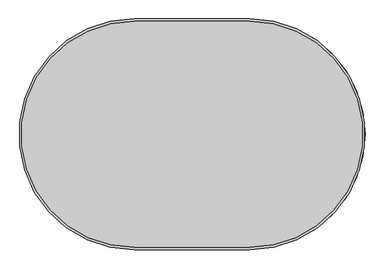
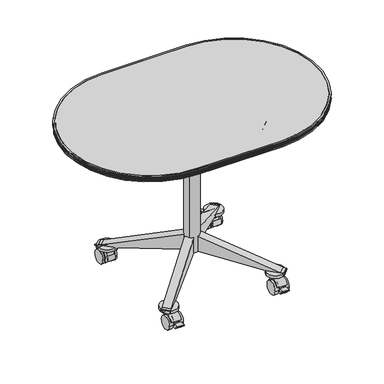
"""IFC4 building model written with IfcOpenShell, lengths in millimetres: furniture geometry, Coalesse_AM_Table_Conference_Ballet_Side : Racetrack - Caster."""

from ifc_helpers import new_model, si_unit, point, frame, frame_2d, origin, place, context, project, spatial, polyline, circle_curve, trimmed, segment, composite_curve, outline, extrude, source, transform, mapped, element, save
from ifc_brep_helpers import plane_surface, cylinder_surface, revolved_surface, advanced_brep


def furniture_60187970(model_context):
    return source(origin(), model_context, "Body", "SolidModel", [
        extrude(outline(composite_curve([segment(polyline([(-37.2834365, 26.9246599), (-26.8661847, 37.3419116)]), True, "CONTINUOUS"), segment(trimmed(circle_curve(frame_2d((0.0745836, 10.4011432)), 38.1), [point((-26.8661847, 37.3419116))], [point((27.015352, 37.3419116))], False, "CARTESIAN"), True, "CONTINUOUS"), segment(polyline([(27.015352, 37.3419116), (38.9313594, 25.4259042)]), True, "CONTINUOUS"), segment(trimmed(circle_curve(frame_2d((13.4893466, -0.0161085)), 35.9804395), [point((38.9313594, 25.4259042))], [point((38.9313594, -25.4581212))], False, "CARTESIAN"), True, "CONTINUOUS"), segment(polyline([(38.9313594, -25.4581212), (27.015352, -37.3741286)]), True, "CONTINUOUS"), segment(trimmed(circle_curve(frame_2d((0.0745836, -10.4333602)), 38.1), [point((27.015352, -37.3741286))], [point((-26.8661847, -37.3741286))], False, "CARTESIAN"), True, "CONTINUOUS"), segment(polyline([(-26.8661847, -37.3741286), (-37.2834365, -26.9568769)]), True, "CONTINUOUS"), segment(trimmed(circle_curve(frame_2d((-10.3426681, -0.0161085)), 38.1), [point((-37.2834365, -26.9568769))], [point((-37.2834365, 26.9246599))], False, "CARTESIAN"), True, "CONTINUOUS")], self_intersect=False)), frame((0.0, 0.0, 536.3169247), z_axis=(0.0, 0.0, 1.0), x_axis=(1.0, 0.0, 0.0)), (0.0, 0.0, 1.0), 50.3081696),
        extrude(outline(composite_curve([segment(polyline([(-81.1409418, 49.3084633), (-49.5692956, 80.8801095)]), True, "CONTINUOUS"), segment(trimmed(circle_curve(frame_2d((0.0, 156.1108358)), 90.0931587), [point((-49.5692956, 80.8801095))], [point((49.871233, 81.0799264))], True, "CARTESIAN"), True, "CONTINUOUS"), segment(polyline([(49.871233, 81.0799264), (81.1309866, 49.8201728)]), True, "CONTINUOUS"), segment(trimmed(circle_curve(frame_2d((153.3620811, 0.0)), 87.7461145), [point((81.1309866, 49.8201728))], [point((81.7629451, -50.7241989))], True, "CARTESIAN"), True, "CONTINUOUS"), segment(polyline([(81.7629451, -50.7241989), (50.5881651, -81.8989789)]), True, "CONTINUOUS"), segment(trimmed(circle_curve(frame_2d((0.0, -154.7295322)), 88.6761069), [point((50.5881651, -81.8989789))], [point((-51.0893198, -82.2496499))], True, "CARTESIAN"), True, "CONTINUOUS"), segment(polyline([(-51.0893198, -82.2496499), (-82.3248918, -51.014078)]), True, "CONTINUOUS"), segment(trimmed(circle_curve(frame_2d((-153.9959305, 0.0)), 87.9725749), [point((-82.3248918, -51.014078))], [point((-81.1409418, 49.3084633))], True, "CARTESIAN"), True, "CONTINUOUS")], self_intersect=False)), frame((0.0, 0.0, 563.948073), z_axis=(0.0, 0.0, 1.0), x_axis=(1.0, 0.0, 0.0)), (0.0, 0.0, 1.0), 22.6770213),
        extrude(outline(composite_curve([segment(polyline([(114.3, 0.0), (115.2263736, -5.2537258)]), True, "CONTINUOUS"), segment(trimmed(circle_curve(frame_2d((109.4080133, -6.2796597)), 5.9081179), [point((115.2263736, -5.2537258))], [point((112.3666622, -11.3935872))], False, "CARTESIAN"), True, "CONTINUOUS"), segment(trimmed(circle_curve(frame_2d((-123.1481635, 395.6860679)), 470.2989248), [point((112.3666622, -11.3935872))], [point((-41.1216208, -67.404339))], False, "CARTESIAN"), True, "CONTINUOUS"), segment(trimmed(circle_curve(frame_2d((-123.1481635, 395.6860679)), 470.2989248), [point((-41.1216208, -67.404339))], [point((-66.3652264, -71.172344))], False, "CARTESIAN"), True, "CONTINUOUS"), segment(trimmed(circle_curve(frame_2d((-64.5887584, -85.7781231)), 14.7134164), [point((-66.3652264, -71.172344))], [point((-76.9601862, -77.8136775))], True, "CARTESIAN"), True, "CONTINUOUS"), segment(trimmed(circle_curve(frame_2d((-64.5887584, -85.7781231)), 14.7134164), [point((-76.9601862, -77.8136775))], [point((-79.0764227, -88.3456516))], True, "CARTESIAN"), True, "CONTINUOUS"), segment(trimmed(circle_curve(frame_2d((-82.4829244, -88.9493576)), 3.4595829), [point((-79.0764227, -88.3456516))], [point((-81.6450497, -92.3059452))], False, "CARTESIAN"), True, "CONTINUOUS"), segment(polyline([(-81.6450497, -92.3059452), (-160.9573766, -92.3059452)]), True, "CONTINUOUS"), segment(trimmed(circle_curve(frame_2d((-160.119502, -88.9493576)), 3.4595829), [point((-160.9573766, -92.3059452))], [point((-163.5260036, -88.3456516))], False, "CARTESIAN"), True, "CONTINUOUS"), segment(trimmed(circle_curve(frame_2d((-178.0136679, -85.7781231)), 14.7134164), [point((-163.5260036, -88.3456516))], [point((-165.6422401, -77.8136775))], True, "CARTESIAN"), True, "CONTINUOUS"), segment(trimmed(circle_curve(frame_2d((-178.0136679, -85.7781231)), 14.7134164), [point((-165.6422401, -77.8136775))], [point((-176.2372, -71.172344))], True, "CARTESIAN"), True, "CONTINUOUS"), segment(trimmed(circle_curve(frame_2d((-119.4542628, 395.6860679)), 470.2989248), [point((-176.2372, -71.172344))], [point((-201.4808056, -67.404339))], False, "CARTESIAN"), True, "CONTINUOUS"), segment(trimmed(circle_curve(frame_2d((-119.4542628, 395.6860679)), 470.2989248), [point((-201.4808056, -67.404339))], [point((-354.9690885, -11.3935872))], False, "CARTESIAN"), True, "CONTINUOUS"), segment(trimmed(circle_curve(frame_2d((-352.0104397, -6.2796597)), 5.9081179), [point((-354.9690885, -11.3935872))], [point((-357.8288, -5.2537258))], False, "CARTESIAN"), True, "CONTINUOUS"), segment(polyline([(-357.8288, -5.2537258), (-356.9024264, 0.0), (-242.6024263, 0.0)]), True, "CONTINUOUS"), segment(trimmed(circle_curve(frame_2d((-184.587638, 17.529313)), 60.6052183), [point((-242.6024263, 0.0))], [point((-195.8254097, -42.0249058))], True, "CARTESIAN"), True, "CONTINUOUS"), segment(trimmed(circle_curve(frame_2d((-133.7603939, 286.8867003)), 334.7161645), [point((-195.8254097, -42.0249058))], [point((-152.4418907, -47.3077229))], True, "CARTESIAN"), True, "CONTINUOUS"), segment(trimmed(circle_curve(frame_2d((-151.7916573, -35.6756582)), 11.6502245), [point((-152.4418907, -47.3077229))], [point((-142.023608, -42.0249058))], True, "CARTESIAN"), True, "CONTINUOUS"), segment(polyline([(-142.023608, -42.0249058), (-100.5788184, -42.0249058)]), True, "CONTINUOUS"), segment(trimmed(circle_curve(frame_2d((-90.810769, -35.6756582)), 11.6502245), [point((-100.5788184, -42.0249058))], [point((-90.1605356, -47.3077229))], True, "CARTESIAN"), True, "CONTINUOUS"), segment(trimmed(circle_curve(frame_2d((-108.8420324, 286.8867003)), 334.7161645), [point((-90.1605356, -47.3077229))], [point((-46.7770167, -42.0249058))], True, "CARTESIAN"), True, "CONTINUOUS"), segment(trimmed(circle_curve(frame_2d((-58.0147883, 17.529313)), 60.6052183), [point((-46.7770167, -42.0249058))], [point((0.0, 0.0))], True, "CARTESIAN"), True, "CONTINUOUS"), segment(polyline([(0.0, 0.0), (114.3, 0.0)]), True, "CONTINUOUS")], self_intersect=False)), frame((-101.4283173, 70.1175035, 628.65), z_axis=(0.7071067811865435, 0.7071067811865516, 0.0), x_axis=(-0.7071067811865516, 0.7071067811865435, 0.0)), (0.0, 0.0, 1.0), 44.2801776),
        extrude(outline(composite_curve([segment(polyline([(114.3, 0.0), (115.2263736, -5.2537258)]), True, "CONTINUOUS"), segment(trimmed(circle_curve(frame_2d((109.4080133, -6.2796597)), 5.9081179), [point((115.2263736, -5.2537258))], [point((112.3666622, -11.3935872))], False, "CARTESIAN"), True, "CONTINUOUS"), segment(trimmed(circle_curve(frame_2d((-123.1481635, 395.6860679)), 470.2989248), [point((112.3666622, -11.3935872))], [point((-41.1216208, -67.404339))], False, "CARTESIAN"), True, "CONTINUOUS"), segment(trimmed(circle_curve(frame_2d((-123.1481635, 395.6860679)), 470.2989248), [point((-41.1216208, -67.404339))], [point((-66.3652264, -71.172344))], False, "CARTESIAN"), True, "CONTINUOUS"), segment(trimmed(circle_curve(frame_2d((-64.5887584, -85.7781231)), 14.7134164), [point((-66.3652264, -71.172344))], [point((-76.9601862, -77.8136775))], True, "CARTESIAN"), True, "CONTINUOUS"), segment(trimmed(circle_curve(frame_2d((-64.5887584, -85.7781231)), 14.7134164), [point((-76.9601862, -77.8136775))], [point((-79.0764227, -88.3456516))], True, "CARTESIAN"), True, "CONTINUOUS"), segment(trimmed(circle_curve(frame_2d((-82.4829244, -88.9493576)), 3.4595829), [point((-79.0764227, -88.3456516))], [point((-81.6450497, -92.3059452))], False, "CARTESIAN"), True, "CONTINUOUS"), segment(polyline([(-81.6450497, -92.3059452), (-160.9573766, -92.3059452)]), True, "CONTINUOUS"), segment(trimmed(circle_curve(frame_2d((-160.119502, -88.9493576)), 3.4595829), [point((-160.9573766, -92.3059452))], [point((-163.5260036, -88.3456516))], False, "CARTESIAN"), True, "CONTINUOUS"), segment(trimmed(circle_curve(frame_2d((-178.0136679, -85.7781231)), 14.7134164), [point((-163.5260036, -88.3456516))], [point((-165.6422401, -77.8136775))], True, "CARTESIAN"), True, "CONTINUOUS"), segment(trimmed(circle_curve(frame_2d((-178.0136679, -85.7781231)), 14.7134164), [point((-165.6422401, -77.8136775))], [point((-176.2372, -71.172344))], True, "CARTESIAN"), True, "CONTINUOUS"), segment(trimmed(circle_curve(frame_2d((-119.4542628, 395.6860679)), 470.2989248), [point((-176.2372, -71.172344))], [point((-201.4808056, -67.404339))], False, "CARTESIAN"), True, "CONTINUOUS"), segment(trimmed(circle_curve(frame_2d((-119.4542628, 395.6860679)), 470.2989248), [point((-201.4808056, -67.404339))], [point((-354.9690885, -11.3935872))], False, "CARTESIAN"), True, "CONTINUOUS"), segment(trimmed(circle_curve(frame_2d((-352.0104397, -6.2796597)), 5.9081179), [point((-354.9690885, -11.3935872))], [point((-357.8288, -5.2537258))], False, "CARTESIAN"), True, "CONTINUOUS"), segment(polyline([(-357.8288, -5.2537258), (-356.9024264, 0.0), (-242.6024263, 0.0)]), True, "CONTINUOUS"), segment(trimmed(circle_curve(frame_2d((-184.587638, 17.529313)), 60.6052183), [point((-242.6024263, 0.0))], [point((-195.8254097, -42.0249058))], True, "CARTESIAN"), True, "CONTINUOUS"), segment(trimmed(circle_curve(frame_2d((-133.7603939, 286.8867003)), 334.7161645), [point((-195.8254097, -42.0249058))], [point((-152.4418907, -47.3077229))], True, "CARTESIAN"), True, "CONTINUOUS"), segment(trimmed(circle_curve(frame_2d((-151.7916573, -35.6756582)), 11.6502245), [point((-152.4418907, -47.3077229))], [point((-142.023608, -42.0249058))], True, "CARTESIAN"), True, "CONTINUOUS"), segment(polyline([(-142.023608, -42.0249058), (-100.5788184, -42.0249058)]), True, "CONTINUOUS"), segment(trimmed(circle_curve(frame_2d((-90.810769, -35.6756582)), 11.6502245), [point((-100.5788184, -42.0249058))], [point((-90.1605356, -47.3077229))], True, "CARTESIAN"), True, "CONTINUOUS"), segment(trimmed(circle_curve(frame_2d((-108.8420324, 286.8867003)), 334.7161645), [point((-90.1605356, -47.3077229))], [point((-46.7770167, -42.0249058))], True, "CARTESIAN"), True, "CONTINUOUS"), segment(trimmed(circle_curve(frame_2d((-58.0147883, 17.529313)), 60.6052183), [point((-46.7770167, -42.0249058))], [point((0.0, 0.0))], True, "CARTESIAN"), True, "CONTINUOUS"), segment(polyline([(0.0, 0.0), (114.3, 0.0)]), True, "CONTINUOUS")], self_intersect=False)), frame((-70.1175035, -101.4283173, 628.65), z_axis=(-0.7071067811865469, 0.7071067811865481, 0.0), x_axis=(-0.7071067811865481, -0.7071067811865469, 0.0)), (0.0, 0.0, 1.0), 44.2801776),
        extrude(outline(composite_curve([segment(trimmed(circle_curve(frame_2d((209.2741105, 25.3444377)), 28.8343721), [point((182.4395783, 14.7931869))], [point((182.4395783, 35.8956886))], False, "CARTESIAN"), True, "CONTINUOUS"), segment(trimmed(circle_curve(frame_2d((207.8788336, 25.8930561)), 27.3351124), [point((182.4395783, 35.8956886))], [point((197.8152878, 51.3082762))], False, "CARTESIAN"), True, "CONTINUOUS"), segment(trimmed(circle_curve(frame_2d((209.4353674, 26.7032164)), 27.2109394), [point((197.8152878, 51.3082762))], [point((234.6796249, 36.8601197))], False, "CARTESIAN"), True, "CONTINUOUS"), segment(polyline([(234.6796249, 36.8601197), (231.2540436, 35.7749086)]), True, "CONTINUOUS"), segment(trimmed(circle_curve(frame_2d((208.7663144, 24.9907393)), 24.9398531), [point((231.2540436, 35.7749086))], [point((185.3508649, 16.4051117))], True, "CARTESIAN"), True, "CONTINUOUS"), segment(polyline([(185.3508649, 16.4051117), (182.4395783, 14.7931869)]), True, "CONTINUOUS")], self_intersect=False)), frame((174.0984431, 0.0, 0.0), z_axis=(1.0, 0.0, 0.0), x_axis=(0.0, 1.0, 0.0)), (0.0, 0.0, 1.0), 36.0286787),
        extrude(outline(composite_curve([segment(trimmed(circle_curve(frame_2d((208.7663144, 24.9907393)), 24.9398531), [point((233.7061675, 24.9907393))], [point((183.8264612, 24.9907393))], False, "CARTESIAN"), True, "CONTINUOUS"), segment(trimmed(circle_curve(frame_2d((208.7663144, 24.9907393)), 24.9398531), [point((183.8264612, 24.9907393))], [point((233.7061675, 24.9907393))], False, "CARTESIAN"), True, "CONTINUOUS")], self_intersect=False)), frame((166.2968952, 0.0, 0.0), z_axis=(1.0, 0.0, 0.0), x_axis=(0.0, 1.0, 0.0)), (0.0, 0.0, 1.0), 14.6120158),
        extrude(outline(composite_curve([segment(polyline([(197.8152878, 63.5225277), (197.8152878, 51.3082762)]), True, "CONTINUOUS"), segment(trimmed(circle_curve(frame_2d((209.4353674, 26.7032164)), 27.2109394), [point((197.8152878, 51.3082762))], [point((234.6796249, 36.8601197))], False, "CARTESIAN"), True, "CONTINUOUS"), segment(polyline([(234.6796249, 36.8601197), (219.8001714, 32.1463658), (222.0637731, 25.0010719), (241.3530844, 25.0010719), (241.3530844, 35.1210973), (260.4030844, 35.1210973), (260.4030844, 31.7691038), (253.6776476, 31.7691038), (244.706152, 17.4117096), (218.9375545, 17.4117096)]), True, "CONTINUOUS"), segment(trimmed(circle_curve(frame_2d((208.672695, 25.0010719)), 12.7658043), [point((218.9375545, 17.4117096))], [point((198.9802659, 16.6930892))], False, "CARTESIAN"), True, "CONTINUOUS"), segment(polyline([(198.9802659, 16.6930892), (195.904393, 22.2484025), (182.4395783, 14.7931869)]), True, "CONTINUOUS"), segment(trimmed(circle_curve(frame_2d((209.2741105, 25.3444377)), 28.8343721), [point((182.4395783, 14.7931869))], [point((182.4395783, 35.8956886))], False, "CARTESIAN"), True, "CONTINUOUS"), segment(polyline([(182.4395783, 35.8956886), (182.4395783, 63.5225277), (197.8152878, 63.5225277)]), True, "CONTINUOUS")], self_intersect=False)), frame((179.2633359, 0.0, 0.0), z_axis=(1.0, 0.0, 0.0), x_axis=(0.0, 1.0, 0.0)), (0.0, 0.0, 1.0), 22.3970625),
        extrude(outline(composite_curve([segment(trimmed(circle_curve(frame_2d((208.7663144, 24.9907393)), 24.9398531), [point((233.7061675, 24.9907393))], [point((183.8264612, 24.9907393))], False, "CARTESIAN"), True, "CONTINUOUS"), segment(trimmed(circle_curve(frame_2d((208.7663144, 24.9907393)), 24.9398531), [point((183.8264612, 24.9907393))], [point((233.7061675, 24.9907393))], False, "CARTESIAN"), True, "CONTINUOUS")], self_intersect=False)), frame((203.3322938, 0.0, 0.0), z_axis=(1.0, 0.0, 0.0), x_axis=(0.0, 1.0, 0.0)), (0.0, 0.0, 1.0), 13.7103424),
        extrude(outline(composite_curve([segment(trimmed(circle_curve(frame_2d((209.2741105, 25.3444377)), 28.8343721), [point((182.4395783, 14.7931869))], [point((182.4395783, 35.8956886))], False, "CARTESIAN"), True, "CONTINUOUS"), segment(trimmed(circle_curve(frame_2d((207.8788336, 25.8930561)), 27.3351124), [point((182.4395783, 35.8956886))], [point((197.8152878, 51.3082762))], False, "CARTESIAN"), True, "CONTINUOUS"), segment(trimmed(circle_curve(frame_2d((209.4353674, 26.7032164)), 27.2109394), [point((197.8152878, 51.3082762))], [point((234.6796249, 36.8601197))], False, "CARTESIAN"), True, "CONTINUOUS"), segment(polyline([(234.6796249, 36.8601197), (231.2540436, 35.7749086)]), True, "CONTINUOUS"), segment(trimmed(circle_curve(frame_2d((208.7663144, 24.9907393)), 24.9398531), [point((231.2540436, 35.7749086))], [point((185.3508649, 16.4051117))], True, "CARTESIAN"), True, "CONTINUOUS"), segment(polyline([(185.3508649, 16.4051117), (182.4395783, 14.7931869)]), True, "CONTINUOUS")], self_intersect=False)), frame((-210.1271218, 0.0, 0.0), z_axis=(1.0, 0.0, 0.0), x_axis=(0.0, 1.0, 0.0)), (0.0, 0.0, 1.0), 36.0286787),
        extrude(outline(composite_curve([segment(trimmed(circle_curve(frame_2d((208.7663144, 24.9907393)), 24.9398531), [point((233.7061675, 24.9907393))], [point((183.8264612, 24.9907393))], False, "CARTESIAN"), True, "CONTINUOUS"), segment(trimmed(circle_curve(frame_2d((208.7663144, 24.9907393)), 24.9398531), [point((183.8264612, 24.9907393))], [point((233.7061675, 24.9907393))], False, "CARTESIAN"), True, "CONTINUOUS")], self_intersect=False)), frame((-180.908911, 0.0, 0.0), z_axis=(1.0, 0.0, 0.0), x_axis=(0.0, 1.0, 0.0)), (0.0, 0.0, 1.0), 14.6120158),
        extrude(outline(composite_curve([segment(polyline([(197.8152878, 63.5225277), (197.8152878, 51.3082762)]), True, "CONTINUOUS"), segment(trimmed(circle_curve(frame_2d((209.4353674, 26.7032164)), 27.2109394), [point((197.8152878, 51.3082762))], [point((234.6796249, 36.8601197))], False, "CARTESIAN"), True, "CONTINUOUS"), segment(polyline([(234.6796249, 36.8601197), (219.8001714, 32.1463658), (222.0637731, 25.0010719), (241.3530844, 25.0010719), (241.3530844, 35.1210973), (260.4030844, 35.1210973), (260.4030844, 31.7691038), (253.6776476, 31.7691038), (244.706152, 17.4117096), (218.9375545, 17.4117096)]), True, "CONTINUOUS"), segment(trimmed(circle_curve(frame_2d((208.672695, 25.0010719)), 12.7658043), [point((218.9375545, 17.4117096))], [point((198.9802659, 16.6930892))], False, "CARTESIAN"), True, "CONTINUOUS"), segment(polyline([(198.9802659, 16.6930892), (195.904393, 22.2484025), (182.4395783, 14.7931869)]), True, "CONTINUOUS"), segment(trimmed(circle_curve(frame_2d((209.2741105, 25.3444377)), 28.8343721), [point((182.4395783, 14.7931869))], [point((182.4395783, 35.8956886))], False, "CARTESIAN"), True, "CONTINUOUS"), segment(polyline([(182.4395783, 35.8956886), (182.4395783, 63.5225277), (197.8152878, 63.5225277)]), True, "CONTINUOUS")], self_intersect=False)), frame((-201.6603984, 0.0, 0.0), z_axis=(1.0, 0.0, 0.0), x_axis=(0.0, 1.0, 0.0)), (0.0, 0.0, 1.0), 22.3970625),
        extrude(outline(composite_curve([segment(trimmed(circle_curve(frame_2d((208.7663144, 24.9907393)), 24.9398531), [point((233.7061675, 24.9907393))], [point((183.8264612, 24.9907393))], False, "CARTESIAN"), True, "CONTINUOUS"), segment(trimmed(circle_curve(frame_2d((208.7663144, 24.9907393)), 24.9398531), [point((183.8264612, 24.9907393))], [point((233.7061675, 24.9907393))], False, "CARTESIAN"), True, "CONTINUOUS")], self_intersect=False)), frame((-217.0426362, 0.0, 0.0), z_axis=(1.0, 0.0, 0.0), x_axis=(0.0, 1.0, 0.0)), (0.0, 0.0, 1.0), 13.7103424),
        extrude(outline(composite_curve([segment(polyline([(-182.4395783, 14.7931869), (-185.3508649, 16.4051117)]), True, "CONTINUOUS"), segment(trimmed(circle_curve(frame_2d((-208.7663144, 24.9907393)), 24.9398531), [point((-185.3508649, 16.4051117))], [point((-231.2540436, 35.7749086))], True, "CARTESIAN"), True, "CONTINUOUS"), segment(polyline([(-231.2540436, 35.7749086), (-234.6796249, 36.8601197)]), True, "CONTINUOUS"), segment(trimmed(circle_curve(frame_2d((-209.4353674, 26.7032164)), 27.2109394), [point((-234.6796249, 36.8601197))], [point((-197.8152878, 51.3082762))], False, "CARTESIAN"), True, "CONTINUOUS"), segment(trimmed(circle_curve(frame_2d((-207.8788336, 25.8930561)), 27.3351124), [point((-197.8152878, 51.3082762))], [point((-182.4395783, 35.8956886))], False, "CARTESIAN"), True, "CONTINUOUS"), segment(trimmed(circle_curve(frame_2d((-209.2741105, 25.3444377)), 28.8343721), [point((-182.4395783, 35.8956886))], [point((-182.4395783, 14.7931869))], False, "CARTESIAN"), True, "CONTINUOUS")], self_intersect=False)), frame((-210.1271218, 0.0, 0.0), z_axis=(1.0, 0.0, 0.0), x_axis=(0.0, 1.0, 0.0)), (0.0, 0.0, 1.0), 36.0286787),
        extrude(outline(composite_curve([segment(trimmed(circle_curve(frame_2d((-208.7663144, 24.9907393)), 24.9398531), [point((-233.7061675, 24.9907393))], [point((-183.8264612, 24.9907393))], False, "CARTESIAN"), True, "CONTINUOUS"), segment(trimmed(circle_curve(frame_2d((-208.7663144, 24.9907393)), 24.9398531), [point((-183.8264612, 24.9907393))], [point((-233.7061675, 24.9907393))], False, "CARTESIAN"), True, "CONTINUOUS")], self_intersect=False)), frame((-180.908911, 0.0, 0.0), z_axis=(1.0, 0.0, 0.0), x_axis=(0.0, 1.0, 0.0)), (0.0, 0.0, 1.0), 14.6120158),
        extrude(outline(composite_curve([segment(polyline([(-197.8152878, 63.5225277), (-182.4395783, 63.5225277), (-182.4395783, 35.8956886)]), True, "CONTINUOUS"), segment(trimmed(circle_curve(frame_2d((-209.2741105, 25.3444377)), 28.8343721), [point((-182.4395783, 35.8956886))], [point((-182.4395783, 14.7931869))], False, "CARTESIAN"), True, "CONTINUOUS"), segment(polyline([(-182.4395783, 14.7931869), (-195.904393, 22.2484025), (-198.9802659, 16.6930892)]), True, "CONTINUOUS"), segment(trimmed(circle_curve(frame_2d((-208.672695, 25.0010719)), 12.7658043), [point((-198.9802659, 16.6930892))], [point((-218.9375545, 17.4117096))], False, "CARTESIAN"), True, "CONTINUOUS"), segment(polyline([(-218.9375545, 17.4117096), (-244.706152, 17.4117096), (-253.6776476, 31.7691038), (-260.4030844, 31.7691038), (-260.4030844, 35.1210973), (-241.3530844, 35.1210973), (-241.3530844, 25.0010719), (-222.0637731, 25.0010719), (-219.8001714, 32.1463658), (-234.6796249, 36.8601197)]), True, "CONTINUOUS"), segment(trimmed(circle_curve(frame_2d((-209.4353674, 26.7032164)), 27.2109394), [point((-234.6796249, 36.8601197))], [point((-197.8152878, 51.3082762))], False, "CARTESIAN"), True, "CONTINUOUS"), segment(polyline([(-197.8152878, 51.3082762), (-197.8152878, 63.5225277)]), True, "CONTINUOUS")], self_intersect=False)), frame((-201.6603984, 0.0, 0.0), z_axis=(1.0, 0.0, 0.0), x_axis=(0.0, 1.0, 0.0)), (0.0, 0.0, 1.0), 22.3970625),
        extrude(outline(composite_curve([segment(trimmed(circle_curve(frame_2d((-208.7663144, 24.9907393)), 24.9398531), [point((-233.7061675, 24.9907393))], [point((-183.8264612, 24.9907393))], False, "CARTESIAN"), True, "CONTINUOUS"), segment(trimmed(circle_curve(frame_2d((-208.7663144, 24.9907393)), 24.9398531), [point((-183.8264612, 24.9907393))], [point((-233.7061675, 24.9907393))], False, "CARTESIAN"), True, "CONTINUOUS")], self_intersect=False)), frame((-217.0426362, 0.0, 0.0), z_axis=(1.0, 0.0, 0.0), x_axis=(0.0, 1.0, 0.0)), (0.0, 0.0, 1.0), 13.7103424),
        extrude(outline(composite_curve([segment(polyline([(-182.4395783, 14.7931869), (-185.3508649, 16.4051117)]), True, "CONTINUOUS"), segment(trimmed(circle_curve(frame_2d((-208.7663144, 24.9907393)), 24.9398531), [point((-185.3508649, 16.4051117))], [point((-231.2540436, 35.7749086))], True, "CARTESIAN"), True, "CONTINUOUS"), segment(polyline([(-231.2540436, 35.7749086), (-234.6796249, 36.8601197)]), True, "CONTINUOUS"), segment(trimmed(circle_curve(frame_2d((-209.4353674, 26.7032164)), 27.2109394), [point((-234.6796249, 36.8601197))], [point((-197.8152878, 51.3082762))], False, "CARTESIAN"), True, "CONTINUOUS"), segment(trimmed(circle_curve(frame_2d((-207.8788336, 25.8930561)), 27.3351124), [point((-197.8152878, 51.3082762))], [point((-182.4395783, 35.8956886))], False, "CARTESIAN"), True, "CONTINUOUS"), segment(trimmed(circle_curve(frame_2d((-209.2741105, 25.3444377)), 28.8343721), [point((-182.4395783, 35.8956886))], [point((-182.4395783, 14.7931869))], False, "CARTESIAN"), True, "CONTINUOUS")], self_intersect=False)), frame((174.0984431, 0.0, 0.0), z_axis=(1.0, 0.0, 0.0), x_axis=(0.0, 1.0, 0.0)), (0.0, 0.0, 1.0), 36.0286787),
        extrude(outline(composite_curve([segment(trimmed(circle_curve(frame_2d((-208.7663144, 24.9907393)), 24.9398531), [point((-233.7061675, 24.9907393))], [point((-183.8264612, 24.9907393))], False, "CARTESIAN"), True, "CONTINUOUS"), segment(trimmed(circle_curve(frame_2d((-208.7663144, 24.9907393)), 24.9398531), [point((-183.8264612, 24.9907393))], [point((-233.7061675, 24.9907393))], False, "CARTESIAN"), True, "CONTINUOUS")], self_intersect=False)), frame((166.2968952, 0.0, 0.0), z_axis=(1.0, 0.0, 0.0), x_axis=(0.0, 1.0, 0.0)), (0.0, 0.0, 1.0), 14.6120158),
        extrude(outline(composite_curve([segment(polyline([(-197.8152878, 63.5225277), (-182.4395783, 63.5225277), (-182.4395783, 35.8956886)]), True, "CONTINUOUS"), segment(trimmed(circle_curve(frame_2d((-209.2741105, 25.3444377)), 28.8343721), [point((-182.4395783, 35.8956886))], [point((-182.4395783, 14.7931869))], False, "CARTESIAN"), True, "CONTINUOUS"), segment(polyline([(-182.4395783, 14.7931869), (-195.904393, 22.2484025), (-198.9802659, 16.6930892)]), True, "CONTINUOUS"), segment(trimmed(circle_curve(frame_2d((-208.672695, 25.0010719)), 12.7658043), [point((-198.9802659, 16.6930892))], [point((-218.9375545, 17.4117096))], False, "CARTESIAN"), True, "CONTINUOUS"), segment(polyline([(-218.9375545, 17.4117096), (-244.706152, 17.4117096), (-253.6776476, 31.7691038), (-260.4030844, 31.7691038), (-260.4030844, 35.1210973), (-241.3530844, 35.1210973), (-241.3530844, 25.0010719), (-222.0637731, 25.0010719), (-219.8001714, 32.1463658), (-234.6796249, 36.8601197)]), True, "CONTINUOUS"), segment(trimmed(circle_curve(frame_2d((-209.4353674, 26.7032164)), 27.2109394), [point((-234.6796249, 36.8601197))], [point((-197.8152878, 51.3082762))], False, "CARTESIAN"), True, "CONTINUOUS"), segment(polyline([(-197.8152878, 51.3082762), (-197.8152878, 63.5225277)]), True, "CONTINUOUS")], self_intersect=False)), frame((179.2633359, 0.0, 0.0), z_axis=(1.0, 0.0, 0.0), x_axis=(0.0, 1.0, 0.0)), (0.0, 0.0, 1.0), 22.3970625),
        extrude(outline(composite_curve([segment(trimmed(circle_curve(frame_2d((-208.7663144, 24.9907393)), 24.9398531), [point((-233.7061675, 24.9907393))], [point((-183.8264612, 24.9907393))], False, "CARTESIAN"), True, "CONTINUOUS"), segment(trimmed(circle_curve(frame_2d((-208.7663144, 24.9907393)), 24.9398531), [point((-183.8264612, 24.9907393))], [point((-233.7061675, 24.9907393))], False, "CARTESIAN"), True, "CONTINUOUS")], self_intersect=False)), frame((203.3322938, 0.0, 0.0), z_axis=(1.0, 0.0, 0.0), x_axis=(0.0, 1.0, 0.0)), (0.0, 0.0, 1.0), 13.7103424),
        extrude(outline(composite_curve([segment(trimmed(circle_curve(frame_2d((-194.715793, 197.3207687)), 31.75), [point((-226.465793, 197.3207687))], [point((-162.965793, 197.3207687))], False, "CARTESIAN"), True, "CONTINUOUS"), segment(trimmed(circle_curve(frame_2d((-194.715793, 197.3207687)), 31.75), [point((-162.965793, 197.3207687))], [point((-226.465793, 197.3207687))], False, "CARTESIAN"), True, "CONTINUOUS")], self_intersect=False)), frame((0.0, 0.0, 62.0397209), z_axis=(0.0, 0.0, 1.0), x_axis=(1.0, 0.0, 0.0)), (0.0, 0.0, 1.0), 10.7840801),
        extrude(outline(composite_curve([segment(trimmed(circle_curve(frame_2d((191.7194605, 196.5270187)), 31.75), [point((159.9694605, 196.5270187))], [point((223.4694605, 196.5270187))], False, "CARTESIAN"), True, "CONTINUOUS"), segment(trimmed(circle_curve(frame_2d((191.7194605, 196.5270187)), 31.75), [point((223.4694605, 196.5270187))], [point((159.9694605, 196.5270187))], False, "CARTESIAN"), True, "CONTINUOUS")], self_intersect=False)), frame((0.0, 0.0, 62.0397209), z_axis=(0.0, 0.0, 1.0), x_axis=(1.0, 0.0, 0.0)), (0.0, 0.0, 1.0), 10.7840801),
        extrude(outline(composite_curve([segment(trimmed(circle_curve(frame_2d((-194.715793, -191.2787692)), 31.75), [point((-226.465793, -191.2787692))], [point((-162.965793, -191.2787692))], False, "CARTESIAN"), True, "CONTINUOUS"), segment(trimmed(circle_curve(frame_2d((-194.715793, -191.2787692)), 31.75), [point((-162.965793, -191.2787692))], [point((-226.465793, -191.2787692))], False, "CARTESIAN"), True, "CONTINUOUS")], self_intersect=False)), frame((0.0, 0.0, 62.0397209), z_axis=(0.0, 0.0, 1.0), x_axis=(1.0, 0.0, 0.0)), (0.0, 0.0, 1.0), 10.7840801),
        extrude(outline(composite_curve([segment(trimmed(circle_curve(frame_2d((191.7194605, -190.4850192)), 31.75), [point((159.9694605, -190.4850192))], [point((223.4694605, -190.4850192))], False, "CARTESIAN"), True, "CONTINUOUS"), segment(trimmed(circle_curve(frame_2d((191.7194605, -190.4850192)), 31.75), [point((223.4694605, -190.4850192))], [point((159.9694605, -190.4850192))], False, "CARTESIAN"), True, "CONTINUOUS")], self_intersect=False)), frame((0.0, 0.0, 62.0397209), z_axis=(0.0, 0.0, 1.0), x_axis=(1.0, 0.0, 0.0)), (0.0, 0.0, 1.0), 10.7840801),
        extrude(outline(composite_curve([segment(polyline([(-57.749273, 0.0), (0.0, 0.0), (-90.9931074, -269.8641919), (-92.3030079, -279.1846177)]), True, "CONTINUOUS"), segment(trimmed(circle_curve(frame_2d((-93.9206951, -278.9572666)), 1.6335852), [point((-92.3030079, -279.1846177))], [point((-93.8206014, -280.5877823))], False, "CARTESIAN"), True, "CONTINUOUS"), segment(trimmed(circle_curve(frame_2d((-95.8523928, -247.4901147)), 33.1599725), [point((-93.8206014, -280.5877823))], [point((-101.682402, -280.1335639))], False, "CARTESIAN"), True, "CONTINUOUS"), segment(trimmed(circle_curve(frame_2d((-101.2796868, -277.8786768)), 2.2905666), [point((-101.682402, -280.1335639))], [point((-103.5674671, -277.7657306))], False, "CARTESIAN"), True, "CONTINUOUS"), segment(polyline([(-103.5674671, -277.7657306), (-103.5674671, -222.4322812)]), True, "CONTINUOUS"), segment(trimmed(circle_curve(frame_2d((-100.6154331, -221.9840334)), 2.9858719), [point((-103.5674671, -222.4322812))], [point((-100.2998684, -219.0148838))], False, "CARTESIAN"), True, "CONTINUOUS"), segment(trimmed(circle_curve(frame_2d((-98.3053249, -200.2482144)), 18.872363), [point((-100.2998684, -219.0148838))], [point((-94.5016021, -218.7332835))], True, "CARTESIAN"), True, "CONTINUOUS"), segment(trimmed(circle_curve(frame_2d((-95.1495986, -215.5841949)), 3.2150673), [point((-94.5016021, -218.7332835))], [point((-91.9741141, -216.0871422))], True, "CARTESIAN"), True, "CONTINUOUS"), segment(polyline([(-91.9741141, -216.0871422), (-57.749273, 0.0)]), True, "CONTINUOUS")], self_intersect=False)), frame((-23.5273141, 7.7834997, 165.607188), z_axis=(0.7071067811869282, 0.707106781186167, 0.0), x_axis=(0.0, 0.0, 1.0)), (0.0, 0.0, 1.0), 29.2174476),
        extrude(outline(composite_curve([segment(polyline([(-57.749273, 44.2801775), (-91.9741141, 260.3673198)]), True, "CONTINUOUS"), segment(trimmed(circle_curve(frame_2d((-95.1495986, 259.8643724)), 3.2150673), [point((-91.9741141, 260.3673198))], [point((-94.5016021, 263.013461))], True, "CARTESIAN"), True, "CONTINUOUS"), segment(trimmed(circle_curve(frame_2d((-98.3053249, 244.5283919)), 18.872363), [point((-94.5016021, 263.013461))], [point((-100.2998684, 263.2950613))], True, "CARTESIAN"), True, "CONTINUOUS"), segment(trimmed(circle_curve(frame_2d((-100.6154331, 266.2642109)), 2.9858719), [point((-100.2998684, 263.2950613))], [point((-103.5674671, 266.7124587))], False, "CARTESIAN"), True, "CONTINUOUS"), segment(polyline([(-103.5674671, 266.7124587), (-103.5674671, 322.0459081)]), True, "CONTINUOUS"), segment(trimmed(circle_curve(frame_2d((-101.2796868, 322.1588543)), 2.2905666), [point((-103.5674671, 322.0459081))], [point((-101.682402, 324.4137415))], False, "CARTESIAN"), True, "CONTINUOUS"), segment(trimmed(circle_curve(frame_2d((-95.8523928, 291.7702923)), 33.1599725), [point((-101.682402, 324.4137415))], [point((-93.8206014, 324.8679598))], False, "CARTESIAN"), True, "CONTINUOUS"), segment(trimmed(circle_curve(frame_2d((-93.9206951, 323.2374442)), 1.6335852), [point((-93.8206014, 324.8679598))], [point((-92.3030079, 323.4647953))], False, "CARTESIAN"), True, "CONTINUOUS"), segment(polyline([(-92.3030079, 323.4647953), (-90.9931074, 314.1443694), (0.0, 44.2801775), (-57.749273, 44.2801775)]), True, "CONTINUOUS")], self_intersect=False)), frame((-23.5273141, 7.7834997, 165.607188), z_axis=(0.7071067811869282, 0.707106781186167, 0.0), x_axis=(0.0, 0.0, 1.0)), (0.0, 0.0, 1.0), 29.2174476),
        extrude(outline(composite_curve([segment(polyline([(-57.749273, 0.0), (0.0, 0.0), (-90.9931074, -269.8641919), (-92.3030079, -279.1846177)]), True, "CONTINUOUS"), segment(trimmed(circle_curve(frame_2d((-93.9206951, -278.9572666)), 1.6335852), [point((-92.3030079, -279.1846177))], [point((-93.8206014, -280.5877823))], False, "CARTESIAN"), True, "CONTINUOUS"), segment(trimmed(circle_curve(frame_2d((-95.8523928, -247.4901147)), 33.1599725), [point((-93.8206014, -280.5877823))], [point((-101.682402, -280.1335639))], False, "CARTESIAN"), True, "CONTINUOUS"), segment(trimmed(circle_curve(frame_2d((-101.2796868, -277.8786768)), 2.2905666), [point((-101.682402, -280.1335639))], [point((-103.5674671, -277.7657306))], False, "CARTESIAN"), True, "CONTINUOUS"), segment(polyline([(-103.5674671, -277.7657306), (-103.5674671, -222.4322812)]), True, "CONTINUOUS"), segment(trimmed(circle_curve(frame_2d((-100.6154331, -221.9840334)), 2.9858719), [point((-103.5674671, -222.4322812))], [point((-100.2998684, -219.0148838))], False, "CARTESIAN"), True, "CONTINUOUS"), segment(trimmed(circle_curve(frame_2d((-98.3053249, -200.2482144)), 18.872363), [point((-100.2998684, -219.0148838))], [point((-94.5016021, -218.7332835))], True, "CARTESIAN"), True, "CONTINUOUS"), segment(trimmed(circle_curve(frame_2d((-95.1495986, -215.5841949)), 3.2150673), [point((-94.5016021, -218.7332835))], [point((-91.9741141, -216.0871422))], True, "CARTESIAN"), True, "CONTINUOUS"), segment(polyline([(-91.9741141, -216.0871422), (-57.749273, 0.0)]), True, "CONTINUOUS")], self_intersect=False)), frame((-7.7834997, -23.5273141, 165.607188), z_axis=(-0.7071067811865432, 0.7071067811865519, 0.0), x_axis=(0.0, 0.0, 1.0)), (0.0, 0.0, 1.0), 29.2174476),
        extrude(outline(composite_curve([segment(polyline([(-57.749273, 44.2801775), (-91.9741141, 260.3673198)]), True, "CONTINUOUS"), segment(trimmed(circle_curve(frame_2d((-95.1495986, 259.8643724)), 3.2150673), [point((-91.9741141, 260.3673198))], [point((-94.5016021, 263.013461))], True, "CARTESIAN"), True, "CONTINUOUS"), segment(trimmed(circle_curve(frame_2d((-98.3053249, 244.5283919)), 18.872363), [point((-94.5016021, 263.013461))], [point((-100.2998684, 263.2950613))], True, "CARTESIAN"), True, "CONTINUOUS"), segment(trimmed(circle_curve(frame_2d((-100.6154331, 266.2642109)), 2.9858719), [point((-100.2998684, 263.2950613))], [point((-103.5674671, 266.7124587))], False, "CARTESIAN"), True, "CONTINUOUS"), segment(polyline([(-103.5674671, 266.7124587), (-103.5674671, 322.0459081)]), True, "CONTINUOUS"), segment(trimmed(circle_curve(frame_2d((-101.2796868, 322.1588543)), 2.2905666), [point((-103.5674671, 322.0459081))], [point((-101.682402, 324.4137415))], False, "CARTESIAN"), True, "CONTINUOUS"), segment(trimmed(circle_curve(frame_2d((-95.8523928, 291.7702923)), 33.1599725), [point((-101.682402, 324.4137415))], [point((-93.8206014, 324.8679598))], False, "CARTESIAN"), True, "CONTINUOUS"), segment(trimmed(circle_curve(frame_2d((-93.9206951, 323.2374442)), 1.6335852), [point((-93.8206014, 324.8679598))], [point((-92.3030079, 323.4647953))], False, "CARTESIAN"), True, "CONTINUOUS"), segment(polyline([(-92.3030079, 323.4647953), (-90.9931074, 314.1443694), (0.0, 44.2801775), (-57.749273, 44.2801775)]), True, "CONTINUOUS")], self_intersect=False)), frame((-7.7834997, -23.5273141, 165.607188), z_axis=(-0.7071067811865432, 0.7071067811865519, 0.0), x_axis=(0.0, 0.0, 1.0)), (0.0, 0.0, 1.0), 29.2174476),
        extrude(outline(composite_curve([segment(trimmed(circle_curve(frame_2d((1.04e-05, -1.04e-05)), 25.3999999), [point((-17.9605018, -17.9605225))], [point((17.9605225, 17.9605018))], False, "CARTESIAN"), True, "CONTINUOUS"), segment(trimmed(circle_curve(frame_2d((1.04e-05, -1.04e-05)), 25.3999999), [point((17.9605225, 17.9605018))], [point((-17.9605018, -17.9605225))], False, "CARTESIAN"), True, "CONTINUOUS")], self_intersect=False)), frame((0.0, 0.0, 107.857915), z_axis=(0.0, 0.0, 1.0), x_axis=(1.0, 0.0, 0.0)), (0.0, 0.0, 1.0), 428.4590096),
        advanced_brep(
        [(-152.4001586, -304.7998993, 631.9011368), (-152.4001586, 304.8, 631.9011368), (-152.4001586, 304.8, 628.65), (-152.4001586, -304.7998993, 628.65), (-152.4001586, -301.6579433, 633.4335711), (-152.4001586, 301.6580441, 633.4335711), (-152.4001586, -304.7520483, 634.9903832), (-152.4001586, 304.752149, 634.9903832), (-152.4001586, -301.5051343, 636.574009), (-152.4001586, 301.505235, 636.574009), (-152.4001586, -304.80718, 638.2354473), (-152.4001586, 304.8072807, 638.2354473), (-152.4001586, -301.6739202, 639.7636402), (-152.4001586, 301.6740209, 639.7636402), (-152.4001586, -304.8209424, 641.3470778), (-152.4001586, 304.8210431, 641.3470778), (-152.4001586, -301.5928989, 642.9214998), (-152.4001586, 301.5929996, 642.9214998), (-152.4001586, -304.7998993, 644.5351157), (-152.4001586, 304.8, 644.5351157), (-152.4001586, -304.7998993, 647.7), (-152.4001586, 304.8, 647.7), (-152.4001586, -298.4497559, 628.65), (-152.4001586, 298.4498566, 628.65), (-152.4001586, 298.4498566, 647.7), (-152.4001586, -298.4497559, 647.7), (152.3998414, -304.7998993, 628.65), (152.3998414, -304.7998993, 631.9011368), (152.3998414, -301.6579433, 633.4335711), (152.3998414, -304.7520483, 634.9903832), (152.3998414, -301.5051343, 636.574009), (152.3998414, -304.80718, 638.2354473), (152.3998414, -301.6739202, 639.7636402), (152.3998414, -304.8209424, 641.3470778), (152.3998414, -301.5928989, 642.9214998), (152.3998414, -304.7998993, 644.5351157), (152.3998414, -304.7998993, 647.7), (152.3998414, -298.4497559, 647.7), (152.3998414, -298.4497559, 628.65), (152.3998414, 304.8, 631.9011368), (152.3998414, 304.8, 628.65), (152.3998414, 301.6580441, 633.4335711), (152.3998414, 304.752149, 634.9903832), (152.3998414, 301.505235, 636.574009), (152.3998414, 304.8072807, 638.2354473), (152.3998414, 301.6740209, 639.7636402), (152.3998414, 304.8210431, 641.3470778), (152.3998414, 301.5929996, 642.9214998), (152.3998414, 304.8, 644.5351157), (152.3998414, 304.8, 647.7), (152.3998414, 298.4498566, 628.65), (152.3998414, 298.4498566, 647.7)],
        [
            (0, 1, circle_curve(frame((-152.4001586, 5.04e-05, 631.9011368), z_axis=(0.0, 0.0, -1.0), x_axis=(0.0, 1.0, 0.0)), 304.7999496)),
            (1, 2),
            (2, 3, circle_curve(frame((-152.4001586, 5.04e-05, 628.65), z_axis=(0.0, 0.0, 1.0), x_axis=(0.0, 1.0, 0.0)), 304.7999496)),
            (3, 0),
            (4, 5, circle_curve(frame((-152.4001586, 5.04e-05, 633.4335711), z_axis=(0.0, 0.0, -1.0), x_axis=(0.0, 1.0, 0.0)), 301.6579937)),
            (5, 1),
            (0, 4),
            (6, 7, circle_curve(frame((-152.4001586, 5.04e-05, 634.9903832), z_axis=(0.0, 0.0, -1.0), x_axis=(0.0, 1.0, 0.0)), 304.7520987)),
            (7, 5),
            (4, 6),
            (8, 9, circle_curve(frame((-152.4001586, 5.04e-05, 636.574009), z_axis=(0.0, 0.0, -1.0), x_axis=(0.0, 1.0, 0.0)), 301.5051847)),
            (9, 7),
            (6, 8),
            (10, 11, circle_curve(frame((-152.4001586, 5.04e-05, 638.2354473), z_axis=(0.0, 0.0, -1.0), x_axis=(0.0, 1.0, 0.0)), 304.8072304)),
            (11, 9),
            (8, 10),
            (12, 13, circle_curve(frame((-152.4001586, 5.04e-05, 639.7636402), z_axis=(0.0, 0.0, -1.0), x_axis=(0.0, 1.0, 0.0)), 301.6739706)),
            (13, 11),
            (10, 12),
            (14, 15, circle_curve(frame((-152.4001586, 5.04e-05, 641.3470778), z_axis=(0.0, 0.0, -1.0), x_axis=(0.0, 1.0, 0.0)), 304.8209927)),
            (15, 13),
            (12, 14),
            (16, 17, circle_curve(frame((-152.4001586, 5.04e-05, 642.9214998), z_axis=(0.0, 0.0, -1.0), x_axis=(0.0, 1.0, 0.0)), 301.5929492)),
            (17, 15),
            (14, 16),
            (18, 19, circle_curve(frame((-152.4001586, 5.04e-05, 644.5351157), z_axis=(0.0, 0.0, -1.0), x_axis=(0.0, 1.0, 0.0)), 304.7999496)),
            (19, 17),
            (16, 18),
            (20, 21, circle_curve(frame((-152.4001586, 5.04e-05, 647.7), z_axis=(0.0, 0.0, -1.0), x_axis=(0.0, 1.0, 0.0)), 304.7999496)),
            (21, 19),
            (18, 20),
            (22, 23, circle_curve(frame((-152.4001586, 5.04e-05, 628.65), z_axis=(0.0, 0.0, -1.0), x_axis=(0.0, 1.0, 0.0)), 298.4498062)),
            (23, 24),
            (24, 25, circle_curve(frame((-152.4001586, 5.04e-05, 647.7), z_axis=(0.0, 0.0, 1.0), x_axis=(0.0, 1.0, 0.0)), 298.4498062)),
            (25, 22),
            (3, 26),
            (26, 27),
            (27, 0),
            (27, 28),
            (28, 4),
            (28, 29),
            (29, 6),
            (29, 30),
            (30, 8),
            (30, 31),
            (31, 10),
            (31, 32),
            (32, 12),
            (32, 33),
            (33, 14),
            (33, 34),
            (34, 16),
            (34, 35),
            (35, 18),
            (35, 36),
            (36, 20),
            (25, 37),
            (37, 38),
            (38, 22),
            (39, 27, circle_curve(frame((152.3998414, 5.04e-05, 631.9011368), z_axis=(0.0, 0.0, -1.0), x_axis=(0.0, -1.0, 0.0)), 304.7999496)),
            (26, 40, circle_curve(frame((152.3998414, 5.04e-05, 628.65), z_axis=(0.0, 0.0, 1.0), x_axis=(0.0, -1.0, 0.0)), 304.7999496)),
            (40, 39),
            (41, 28, circle_curve(frame((152.3998414, 5.04e-05, 633.4335711), z_axis=(0.0, 0.0, -1.0), x_axis=(0.0, -1.0, 0.0)), 301.6579937)),
            (39, 41),
            (42, 29, circle_curve(frame((152.3998414, 5.04e-05, 634.9903832), z_axis=(0.0, 0.0, -1.0), x_axis=(0.0, -1.0, 0.0)), 304.7520987)),
            (41, 42),
            (43, 30, circle_curve(frame((152.3998414, 5.04e-05, 636.574009), z_axis=(0.0, 0.0, -1.0), x_axis=(0.0, -1.0, 0.0)), 301.5051847)),
            (42, 43),
            (44, 31, circle_curve(frame((152.3998414, 5.04e-05, 638.2354473), z_axis=(0.0, 0.0, -1.0), x_axis=(0.0, -1.0, 0.0)), 304.8072304)),
            (43, 44),
            (45, 32, circle_curve(frame((152.3998414, 5.04e-05, 639.7636402), z_axis=(0.0, 0.0, -1.0), x_axis=(0.0, -1.0, 0.0)), 301.6739706)),
            (44, 45),
            (46, 33, circle_curve(frame((152.3998414, 5.04e-05, 641.3470778), z_axis=(0.0, 0.0, -1.0), x_axis=(0.0, -1.0, 0.0)), 304.8209927)),
            (45, 46),
            (47, 34, circle_curve(frame((152.3998414, 5.04e-05, 642.9214998), z_axis=(0.0, 0.0, -1.0), x_axis=(0.0, -1.0, 0.0)), 301.5929492)),
            (46, 47),
            (48, 35, circle_curve(frame((152.3998414, 5.04e-05, 644.5351157), z_axis=(0.0, 0.0, -1.0), x_axis=(0.0, -1.0, 0.0)), 304.7999496)),
            (47, 48),
            (49, 36, circle_curve(frame((152.3998414, 5.04e-05, 647.7), z_axis=(0.0, 0.0, -1.0), x_axis=(0.0, -1.0, 0.0)), 304.7999496)),
            (48, 49),
            (50, 38, circle_curve(frame((152.3998414, 5.04e-05, 628.65), z_axis=(0.0, 0.0, -1.0), x_axis=(0.0, -1.0, 0.0)), 298.4498062)),
            (37, 51, circle_curve(frame((152.3998414, 5.04e-05, 647.7), z_axis=(0.0, 0.0, 1.0), x_axis=(0.0, -1.0, 0.0)), 298.4498062)),
            (51, 50),
            (2, 40),
            (50, 23),
            (1, 39),
            (5, 41),
            (7, 42),
            (9, 43),
            (11, 44),
            (13, 45),
            (15, 46),
            (17, 47),
            (19, 48),
            (21, 49),
            (24, 51),
        ],
        [
            cylinder_surface(frame((-152.4001586, 5.04e-05, 647.7), z_axis=(0.0, 0.0, 1.0), x_axis=(0.0, 1.0, 0.0)), 304.7999496),
            revolved_surface(polyline([(-152.4001586, 304.8, 631.9011368), (-152.4001586, 301.6580441, 633.4335711)]), (-152.4001586, 5.04e-05, 647.7), (0.0, 0.0, 1.0)),
            revolved_surface(polyline([(-152.4001586, 301.6580441, 633.4335711), (-152.4001586, 304.752149, 634.9903832)]), (-152.4001586, 5.04e-05, 647.7), (0.0, 0.0, 1.0)),
            revolved_surface(polyline([(-152.4001586, 304.752149, 634.9903832), (-152.4001586, 301.505235, 636.574009)]), (-152.4001586, 5.04e-05, 647.7), (0.0, 0.0, 1.0)),
            revolved_surface(polyline([(-152.4001586, 301.505235, 636.574009), (-152.4001586, 304.8072807, 638.2354473)]), (-152.4001586, 5.04e-05, 647.7), (0.0, 0.0, 1.0)),
            revolved_surface(polyline([(-152.4001586, 304.8072807, 638.2354473), (-152.4001586, 301.6740209, 639.7636402)]), (-152.4001586, 5.04e-05, 647.7), (0.0, 0.0, 1.0)),
            revolved_surface(polyline([(-152.4001586, 301.6740209, 639.7636402), (-152.4001586, 304.8210431, 641.3470778)]), (-152.4001586, 5.04e-05, 647.7), (0.0, 0.0, 1.0)),
            revolved_surface(polyline([(-152.4001586, 304.8210431, 641.3470778), (-152.4001586, 301.5929996, 642.9214998)]), (-152.4001586, 5.04e-05, 647.7), (0.0, 0.0, 1.0)),
            revolved_surface(polyline([(-152.4001586, 301.5929996, 642.9214998), (-152.4001586, 304.8, 644.5351157)]), (-152.4001586, 5.04e-05, 647.7), (0.0, 0.0, 1.0)),
            revolved_surface(polyline([(-152.4001586, 298.44985660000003, 647.7), (-152.4001586, 298.44985660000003, 628.65)]), (-152.4001586, 5.04e-05, 647.7), (0.0, 0.0, 1.0)),
            plane_surface(frame((-152.4001586, -304.7998993, 628.65), z_axis=(0.0, -1.0, 0.0), x_axis=(1.0, 0.0, 0.0))),
            plane_surface(frame((-152.4001586, -304.7998993, 631.9011368), z_axis=(0.0, -0.4383711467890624, 0.8987940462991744), x_axis=(1.0, 0.0, 0.0))),
            plane_surface(frame((-152.4001586, -301.6579433, 633.4335711), z_axis=(0.0, -0.44946631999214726, -0.8932972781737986), x_axis=(1.0, 0.0, 0.0))),
            plane_surface(frame((-152.4001586, -304.7520483, 634.9903832), z_axis=(0.0, -0.4383711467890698, 0.8987940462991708), x_axis=(1.0, 0.0, 0.0))),
            plane_surface(frame((-152.4001586, -301.5051343, 636.574009), z_axis=(0.0, -0.4494663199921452, -0.8932972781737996), x_axis=(1.0, 0.0, 0.0))),
            plane_surface(frame((-152.4001586, -304.80718, 638.2354473), z_axis=(0.0, -0.43837114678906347, 0.8987940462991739), x_axis=(1.0, 0.0, 0.0))),
            plane_surface(frame((-152.4001586, -301.6739202, 639.7636402), z_axis=(0.0, -0.4494663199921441, -0.8932972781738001), x_axis=(1.0, 0.0, 0.0))),
            plane_surface(frame((-152.4001586, -304.8209424, 641.3470778), z_axis=(0.0, -0.43837114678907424, 0.8987940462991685), x_axis=(1.0, 0.0, 0.0))),
            plane_surface(frame((-152.4001586, -301.5928989, 642.9214998), z_axis=(0.0, -0.4494663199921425, -0.893297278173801), x_axis=(1.0, 0.0, 0.0))),
            plane_surface(frame((-152.4001586, -304.7998993, 644.5351157), z_axis=(0.0, -1.0, 0.0), x_axis=(1.0, 0.0, 0.0))),
            plane_surface(frame((-152.4001586, -298.4497559, 647.7), z_axis=(0.0, 1.0, 0.0), x_axis=(1.0, 0.0, 0.0))),
            cylinder_surface(frame((152.3998414, 5.04e-05, 647.7), z_axis=(0.0, 0.0, 1.0), x_axis=(0.0, -1.0, 0.0)), 304.7999496),
            revolved_surface(polyline([(152.3998414, -304.7998993, 631.9011368), (152.3998414, -301.6579433, 633.4335711)]), (152.3998414, 5.04e-05, 647.7), (0.0, 0.0, 1.0)),
            revolved_surface(polyline([(152.3998414, -301.6579433, 633.4335711), (152.3998414, -304.7520483, 634.9903832)]), (152.3998414, 5.04e-05, 647.7), (0.0, 0.0, 1.0)),
            revolved_surface(polyline([(152.3998414, -304.7520483, 634.9903832), (152.3998414, -301.5051343, 636.574009)]), (152.3998414, 5.04e-05, 647.7), (0.0, 0.0, 1.0)),
            revolved_surface(polyline([(152.3998414, -301.5051343, 636.574009), (152.3998414, -304.80718, 638.2354473)]), (152.3998414, 5.04e-05, 647.7), (0.0, 0.0, 1.0)),
            revolved_surface(polyline([(152.3998414, -304.80718, 638.2354473), (152.3998414, -301.6739202, 639.7636402)]), (152.3998414, 5.04e-05, 647.7), (0.0, 0.0, 1.0)),
            revolved_surface(polyline([(152.3998414, -301.6739202, 639.7636402), (152.3998414, -304.8209424, 641.3470778)]), (152.3998414, 5.04e-05, 647.7), (0.0, 0.0, 1.0)),
            revolved_surface(polyline([(152.3998414, -304.8209424, 641.3470778), (152.3998414, -301.5928989, 642.9214998)]), (152.3998414, 5.04e-05, 647.7), (0.0, 0.0, 1.0)),
            revolved_surface(polyline([(152.3998414, -301.5928989, 642.9214998), (152.3998414, -304.7998993, 644.5351157)]), (152.3998414, 5.04e-05, 647.7), (0.0, 0.0, 1.0)),
            revolved_surface(polyline([(152.3998414, -298.4497558, 647.7), (152.3998414, -298.4497558, 628.65)]), (152.3998414, 5.04e-05, 647.7), (0.0, 0.0, 1.0)),
            plane_surface(frame((152.3998414, 298.4498566, 628.65), z_axis=(0.0, 0.0, -1.0), x_axis=(-1.0, 0.0, 0.0))),
            plane_surface(frame((152.3998414, 304.8, 628.65), z_axis=(0.0, 1.0, 0.0), x_axis=(-1.0, 0.0, 0.0))),
            plane_surface(frame((152.3998414, 304.8, 631.9011368), z_axis=(0.0, 0.4383711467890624, 0.8987940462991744), x_axis=(-1.0, 0.0, 0.0))),
            plane_surface(frame((152.3998414, 301.6580441, 633.4335711), z_axis=(0.0, 0.44946631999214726, -0.8932972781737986), x_axis=(-1.0, 0.0, 0.0))),
            plane_surface(frame((152.3998414, 304.752149, 634.9903832), z_axis=(0.0, 0.4383711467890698, 0.8987940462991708), x_axis=(-1.0, 0.0, 0.0))),
            plane_surface(frame((152.3998414, 301.505235, 636.574009), z_axis=(0.0, 0.4494663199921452, -0.8932972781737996), x_axis=(-1.0, 0.0, 0.0))),
            plane_surface(frame((152.3998414, 304.8072807, 638.2354473), z_axis=(0.0, 0.43837114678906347, 0.8987940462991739), x_axis=(-1.0, 0.0, 0.0))),
            plane_surface(frame((152.3998414, 301.6740209, 639.7636402), z_axis=(0.0, 0.4494663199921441, -0.8932972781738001), x_axis=(-1.0, 0.0, 0.0))),
            plane_surface(frame((152.3998414, 304.8210431, 641.3470778), z_axis=(0.0, 0.43837114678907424, 0.8987940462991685), x_axis=(-1.0, 0.0, 0.0))),
            plane_surface(frame((152.3998414, 301.5929996, 642.9214998), z_axis=(0.0, 0.4494663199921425, -0.893297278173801), x_axis=(-1.0, 0.0, 0.0))),
            plane_surface(frame((152.3998414, 304.8, 644.5351157), z_axis=(0.0, 1.0, 0.0), x_axis=(-1.0, 0.0, 0.0))),
            plane_surface(frame((152.3998414, 304.8, 647.7), z_axis=(0.0, 0.0, 1.0), x_axis=(-1.0, 0.0, 0.0))),
            plane_surface(frame((152.3998414, 298.4498566, 647.7), z_axis=(0.0, -1.0, 0.0), x_axis=(-1.0, 0.0, 0.0))),
        ],
        [
            (0, [[1, 2, 3, 4]]),
            (1, [[5, 6, -1, 7]]),
            (2, [[8, 9, -5, 10]]),
            (3, [[11, 12, -8, 13]]),
            (4, [[14, 15, -11, 16]]),
            (5, [[17, 18, -14, 19]]),
            (6, [[20, 21, -17, 22]]),
            (7, [[23, 24, -20, 25]]),
            (8, [[26, 27, -23, 28]]),
            (0, [[29, 30, -26, 31]]),
            (9, [[32, 33, 34, 35]]),
            (10, [[-4, 36, 37, 38]]),
            (11, [[-7, -38, 39, 40]]),
            (12, [[-10, -40, 41, 42]]),
            (13, [[-13, -42, 43, 44]]),
            (14, [[-16, -44, 45, 46]]),
            (15, [[-19, -46, 47, 48]]),
            (16, [[-22, -48, 49, 50]]),
            (17, [[-25, -50, 51, 52]]),
            (18, [[-28, -52, 53, 54]]),
            (19, [[-31, -54, 55, 56]]),
            (20, [[-35, 57, 58, 59]]),
            (21, [[60, -37, 61, 62]]),
            (22, [[63, -39, -60, 64]]),
            (23, [[65, -41, -63, 66]]),
            (24, [[67, -43, -65, 68]]),
            (25, [[69, -45, -67, 70]]),
            (26, [[71, -47, -69, 72]]),
            (27, [[73, -49, -71, 74]]),
            (28, [[75, -51, -73, 76]]),
            (29, [[77, -53, -75, 78]]),
            (21, [[79, -55, -77, 80]]),
            (30, [[81, -58, 82, 83]]),
            (31, [[84, -61, -36, -3], [-59, -81, 85, -32]]),
            (32, [[-62, -84, -2, 86]]),
            (33, [[-64, -86, -6, 87]]),
            (34, [[-66, -87, -9, 88]]),
            (35, [[-68, -88, -12, 89]]),
            (36, [[-70, -89, -15, 90]]),
            (37, [[-72, -90, -18, 91]]),
            (38, [[-74, -91, -21, 92]]),
            (39, [[-76, -92, -24, 93]]),
            (40, [[-78, -93, -27, 94]]),
            (41, [[-80, -94, -30, 95]]),
            (42, [[-56, -79, -95, -29], [96, -82, -57, -34]]),
            (43, [[-83, -96, -33, -85]]),
        ],
    ),
        extrude(outline(composite_curve([segment(trimmed(circle_curve(frame_2d((152.3998414, 5.04e-05)), 298.4498062), [point((152.3998414, 298.4498566))], [point((152.3998414, -298.4497559))], False, "CARTESIAN"), True, "CONTINUOUS"), segment(polyline([(152.3998414, -298.4497559), (-152.4001586, -298.4497559)]), True, "CONTINUOUS"), segment(trimmed(circle_curve(frame_2d((-152.4001586, 5.04e-05)), 298.4498062), [point((-152.4001586, -298.4497559))], [point((-152.4001586, 298.4498566))], False, "CARTESIAN"), True, "CONTINUOUS"), segment(polyline([(-152.4001586, 298.4498566), (152.3998414, 298.4498566)]), True, "CONTINUOUS")], self_intersect=False)), frame((0.0, 0.0, 628.65), z_axis=(0.0, 0.0, 1.0), x_axis=(1.0, 0.0, 0.0)), (0.0, 0.0, 1.0), 19.05),
    ])


if __name__ == "__main__":
    model = new_model("IFC4")
    model_context = context("Model", 3, world=origin())
    ifc_project = project(units=[si_unit("LENGTHUNIT", "METRE", prefix="MILLI")], contexts=[model_context])
    site = spatial("IfcSite", under=ifc_project)
    building = spatial("IfcBuilding", under=site)
    placement = place(None, origin())
    furniture_shape = furniture_60187970(model_context)
    element("IfcFurniture", 1, ObjectType="Coalesse_AM_Table_Conference_Ballet_Side : Racetrack - Caster", at=placement, inside=building, context=model_context, shape_type="MappedRepresentation", body=[
        mapped(furniture_shape, transform((0.0, 0.0, 0.0), x_axis=(1.0, 0.0, 0.0), y_axis=(0.0, 1.0, 0.0), z_axis=(0.0, 0.0, 1.0))),
    ])
    save(model, "model.ifc")
